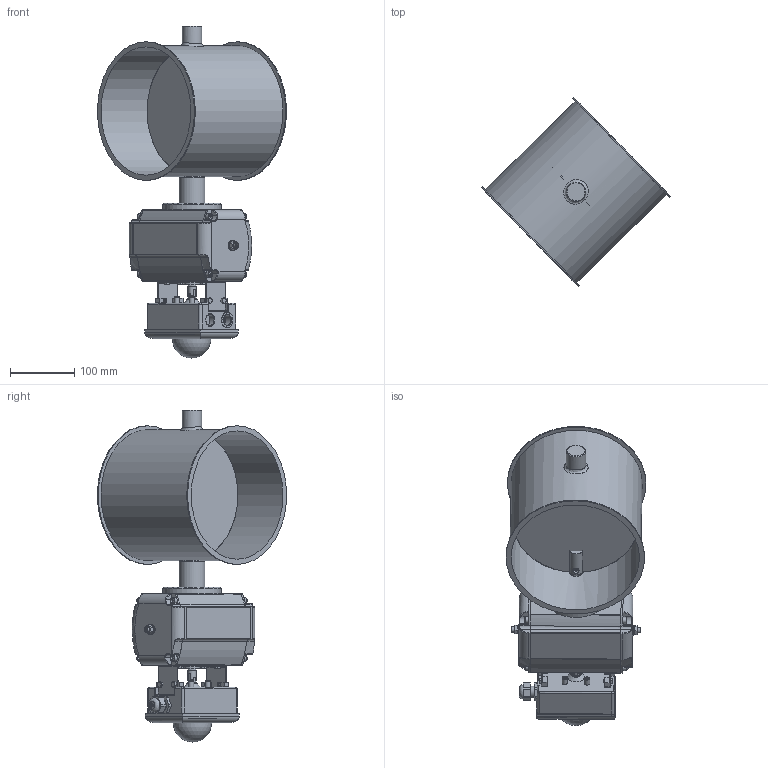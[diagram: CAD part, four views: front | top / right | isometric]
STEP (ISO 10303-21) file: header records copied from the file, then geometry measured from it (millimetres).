
FILE_DESCRIPTION((''),'2;1');
FILE_NAME('U:\Wolfgang\Marcel-3D\fertig\Kapitel 8\2021213.stp','2012-01-13T11:08:25',('iwienholt'),(''),'Autodesk Inventor 2010','Autodesk Inventor 2010','');
FILE_SCHEMA(('AUTOMOTIVE_DESIGN { 1 0 10303 214 1 1 1 1 }'));
Length unit declared in the file: millimetre
Products named in the file (21): 2021213; Bolzen D20; Scheibe200b; 2021211-1; Antrieb Flowserve D20; Pneumatischer SchwenkantriebS85D-2; Body; roter Verschluss; A1 Schwenkantrieb S85D; Body S085D; DIN EN ISO 4018 M5x10; DIN 125-1 A A 13; End Cap L85; End Cap R85; DIN 125-1 A A 8,4; DIN 916 M8  x  40; DIN 555 - ersetzt durch DIN EN 24034 M8; DIN EN ISO 4762 M6 x 12; Halterung; Deckel2; BuchseD20 90-50
Assembly tree (40 placements, depth 5):
  2021213
    Bolzen D20  x2
    Scheibe200b
    2021211-1
    Antrieb Flowserve D20
      Pneumatischer SchwenkantriebS85D-2
        Body
        roter Verschluss
        A1 Schwenkantrieb S85D
          Body S085D
          DIN EN ISO 4018 M5x10  x4
          DIN 125-1 A A 13  x2
          End Cap L85
          End Cap R85
          DIN 125-1 A A 8,4  x2
          DIN 916 M8  x  40  x2
          DIN 555 - ersetzt durch DIN EN 24034 M8  x2
          DIN EN ISO 4762 M6 x 12  x8
        Halterung  x2
        DIN EN ISO 4018 M5x10  x4
        Deckel2
      BuchseD20 90-50
Bounding box: 293.32 x 293.54 x 515 mm (x, y, z)
Volume: 2704637.9 mm3; surface area: 630375 mm2
Topology: 39 solids, 39 shells, 888 faces, 2074 edges, 1317 vertices
Faces by surface type: plane 448, cylinder 197, cone 104, bspline 100, torus 38, sphere 1
Full cylindrical faces by diameter (mm): 3.242 x4, 5 x10, 6 x12, 6.647 x4, 8 x6, 8.376 x1, 8.4 x2, 10 x10, 11.9 x2, 12.5 x1, 13 x5, 14 x1, 16 x2, 17 x1, 17.79 x2, 18 x3, 20 x4, 20.5 x1, 22 x1, 24 x3, 28.5 x1, 30 x3, 40 x3, 90 x1, 199 x2, 203 x1, 215 x2
Entity records: 19249 total; most frequent: CARTESIAN_POINT 5474, DIRECTION 2744, ORIENTED_EDGE 2458, EDGE_CURVE 1229, AXIS2_PLACEMENT_3D 1063, VERTEX_POINT 857, EDGE_LOOP 834, VECTOR 618
